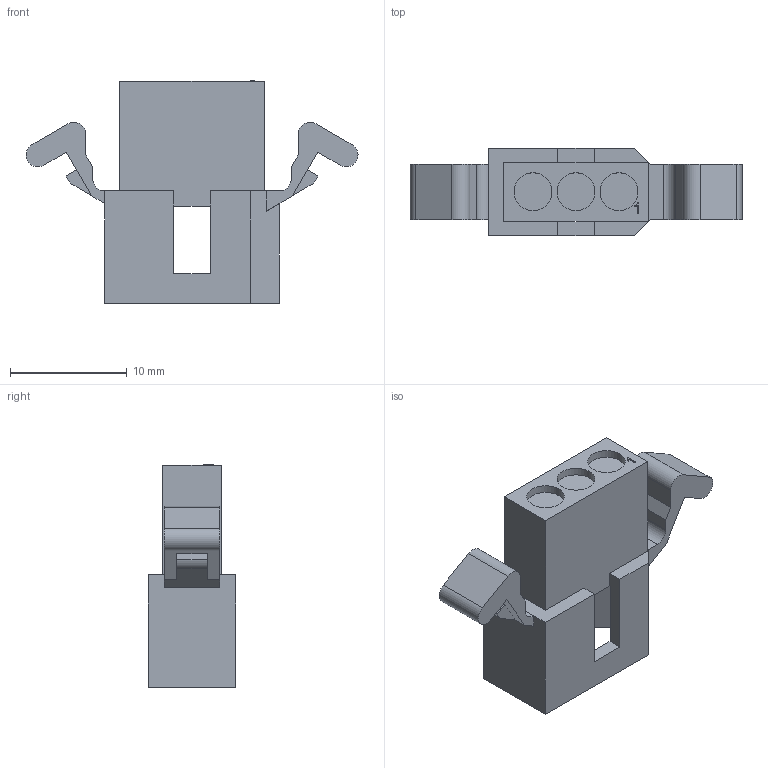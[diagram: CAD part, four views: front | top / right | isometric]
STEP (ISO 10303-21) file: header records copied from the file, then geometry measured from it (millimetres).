
FILE_DESCRIPTION(/* description */ (''),/* implementation_level */ '2;1');
FILE_NAME(/* name */ '16252033wbm000_01_214.stp',/* time_stamp */ '2023-04-27T12:22:36+08:00',/* author */ (''),/* organization */ (''),/* preprocessor_version */ 'ST-DEVELOPER v16.7',/* originating_system */ 'SIEMENS PLM Software NX 1919',/* authorisation */ '');
FILE_SCHEMA (('AUTOMOTIVE_DESIGN { 1 0 10303 214 3 1 1 1 }'));
Length unit declared in the file: millimetre
Products named in the file (1): 16252033wbm000_01
Bounding box: 28.44 x 7.52 x 19.1 mm (x, y, z)
Volume: 1186.4 mm3; surface area: 1506.8 mm2
Topology: 1 solids, 1 shells, 79 faces, 217 edges, 144 vertices
Faces by surface type: plane 63, cylinder 14, extrusion 2
Full cylindrical faces by diameter (mm): 2.82 x3, 3.24 x3
Entity records: 2517 total; most frequent: CARTESIAN_POINT 495, ORIENTED_EDGE 422, DIRECTION 383, EDGE_CURVE 211, VECTOR 171, LINE 169, VERTEX_POINT 144, AXIS2_PLACEMENT_3D 106
